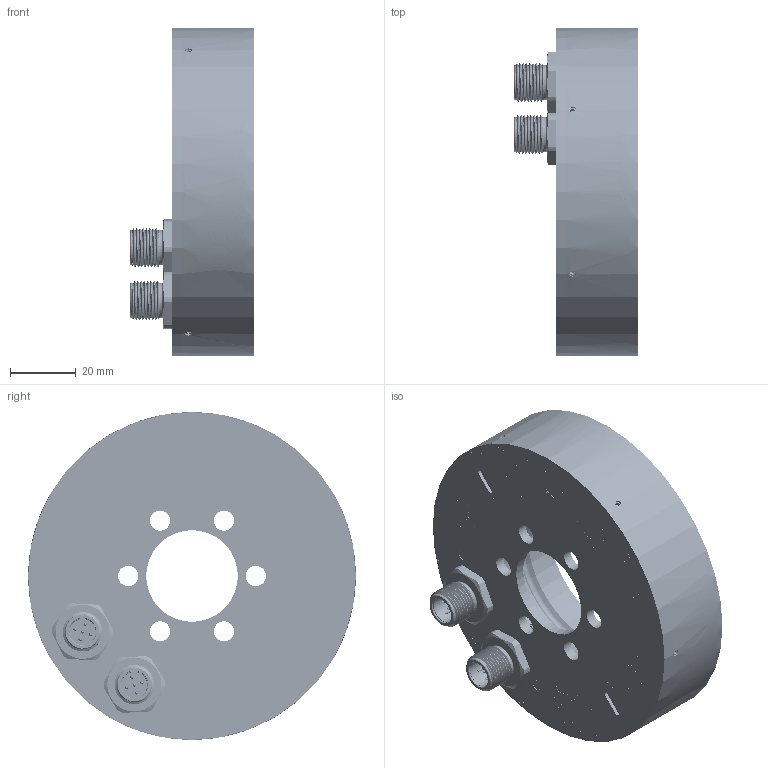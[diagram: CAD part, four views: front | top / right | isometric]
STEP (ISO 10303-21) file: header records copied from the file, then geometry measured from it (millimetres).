
FILE_DESCRIPTION (( 'STEP AP203' ), '1' );
FILE_NAME ('K0E012334_IC-BASE F100_50_zum_Versenden.STEP', '2023-12-22T07:41:22', ( '' ), ( '' ), 'SwSTEP 2.0', 'SolidWorks 2023', '' );
FILE_SCHEMA (( 'CONFIG_CONTROL_DESIGN' ));
Length unit declared in the file: millimetre
Products named in the file (1): K0E012334_IC-BASE F100_50_zum_Versenden
Bounding box: 37.9 x 100 x 100 mm (x, y, z)
Surface area: 66913.6 mm2 (no closed solid volume)
Topology: 0 solids, 67 shells, 5801 faces, 16199 edges, 11048 vertices
Faces by surface type: plane 3139, bspline 1958, cylinder 464, cone 164, torus 76
Entity records: 297250 total; most frequent: CARTESIAN_POINT 161284, ORIENTED_EDGE 31822, DIRECTION 20629, EDGE_CURVE 16191, VERTEX_POINT 11048, LINE 10151, VECTOR 10151, EDGE_LOOP 6513
